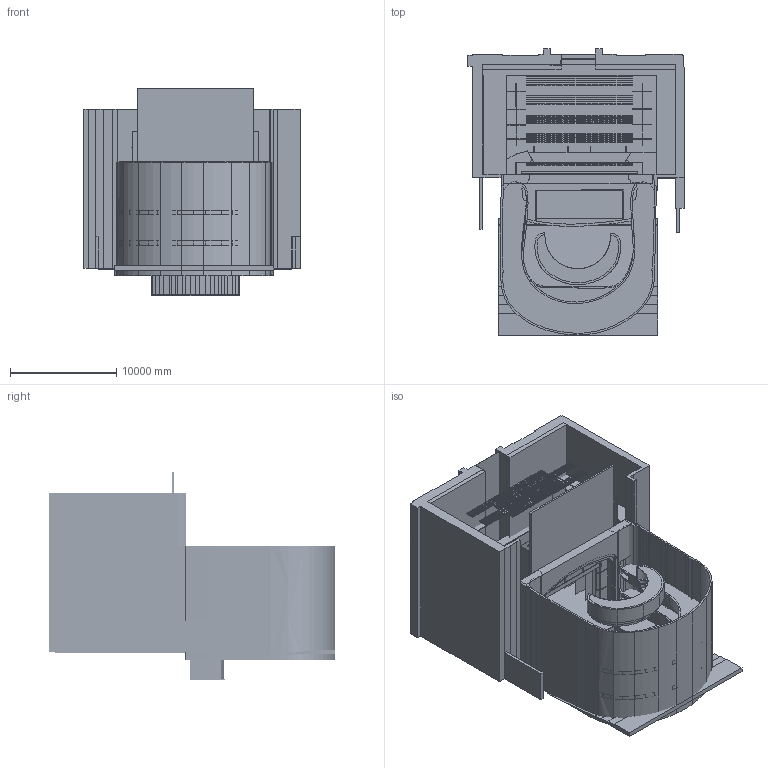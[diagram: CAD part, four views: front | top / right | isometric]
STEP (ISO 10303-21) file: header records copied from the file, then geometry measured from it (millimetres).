
FILE_DESCRIPTION (('STEP'), '1');
FILE_NAME ('\\SrvLUT061\LUT_HOME_Galliker.M$\Dokumente\00 CAD\07 Pläne für Website\LT_Pläne Bühne_für Website.stp', '2026-01-14T09:38:18', ('Unknown'), ('Unknown'), 'HarmonyWare STEP v2.1.9', 'Vectorworks', '');
FILE_SCHEMA (('CONFIG_CONTROL_DESIGN'));
Bounding box: 20403.62 x 26997 x 19570 mm (x, y, z)
Volume: 909855861822.9 mm3; surface area: 5934885137.8 mm2
Topology: 101 solids, 405 shells, 1423 faces, 4364 edges, 4401 vertices
Faces by surface type: bspline 1423
Entity records: 54238 total; most frequent: CARTESIAN_POINT 28874, ORIENTED_EDGE 7121, EDGE_CURVE 4364, B_SPLINE_CURVE_WITH_KNOTS 4136, VERTEX_POINT 3419, EDGE_LOOP 1426, FACE_OUTER_BOUND 1423, ADVANCED_FACE 1423
